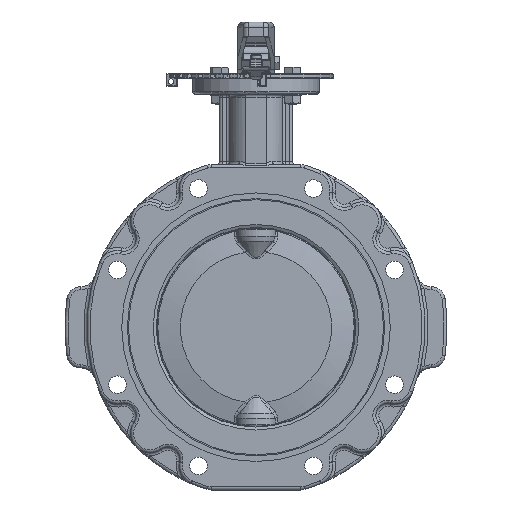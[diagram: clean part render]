
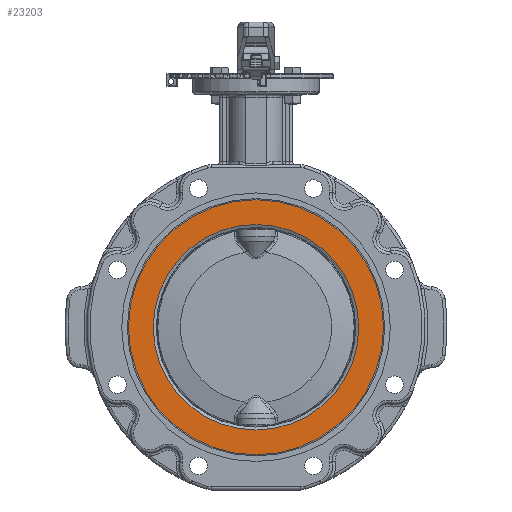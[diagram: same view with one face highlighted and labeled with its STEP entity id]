
A CAD part, left-side view. The second image highlights one B-rep face of the part: STEP entity #23203.
In plain terms, the highlighted planar face has unit normal (-1, 0, 0).
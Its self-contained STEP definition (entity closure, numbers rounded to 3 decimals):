
#22981=CARTESIAN_POINT('',(-30.1,-101.018,0.0));
#22982=VERTEX_POINT('',#22981);
#22983=CARTESIAN_POINT('',(-30.1,0.,0.0));
#22984=DIRECTION('',(1.0,0.0,0.0));
#22985=DIRECTION('',(0.0,-1.0,0.0));
#22986=AXIS2_PLACEMENT_3D('',#22983,#22984,#22985);
#22987=CIRCLE('',#22986,101.018);
#22988=EDGE_CURVE('',#22982,#22982,#22987,.T.);
#23145=CARTESIAN_POINT('',(-30.1,-125.4,0.0));
#23146=VERTEX_POINT('',#23145);
#23147=CARTESIAN_POINT('',(-30.1,0.,0.0));
#23148=DIRECTION('',(1.0,0.0,0.0));
#23149=DIRECTION('',(0.0,-1.0,0.0));
#23150=AXIS2_PLACEMENT_3D('',#23147,#23148,#23149);
#23151=CIRCLE('',#23150,125.4);
#23152=EDGE_CURVE('',#23146,#23146,#23151,.T.);
#23192=CARTESIAN_POINT('',(-30.1,-113.209,0.0));
#23193=DIRECTION('',(-1.0,0.0,0.0));
#23194=DIRECTION('',(0.0,0.0,1.0));
#23195=AXIS2_PLACEMENT_3D('',#23192,#23193,#23194);
#23196=PLANE('',#23195);
#23197=ORIENTED_EDGE('',*,*,#23152,.F.);
#23198=EDGE_LOOP('',(#23197));
#23199=FACE_OUTER_BOUND('',#23198,.T.);
#23200=ORIENTED_EDGE('',*,*,#22988,.T.);
#23201=EDGE_LOOP('',(#23200));
#23202=FACE_BOUND('',#23201,.T.);
#23203=ADVANCED_FACE('',(#23199,#23202),#23196,.T.);
